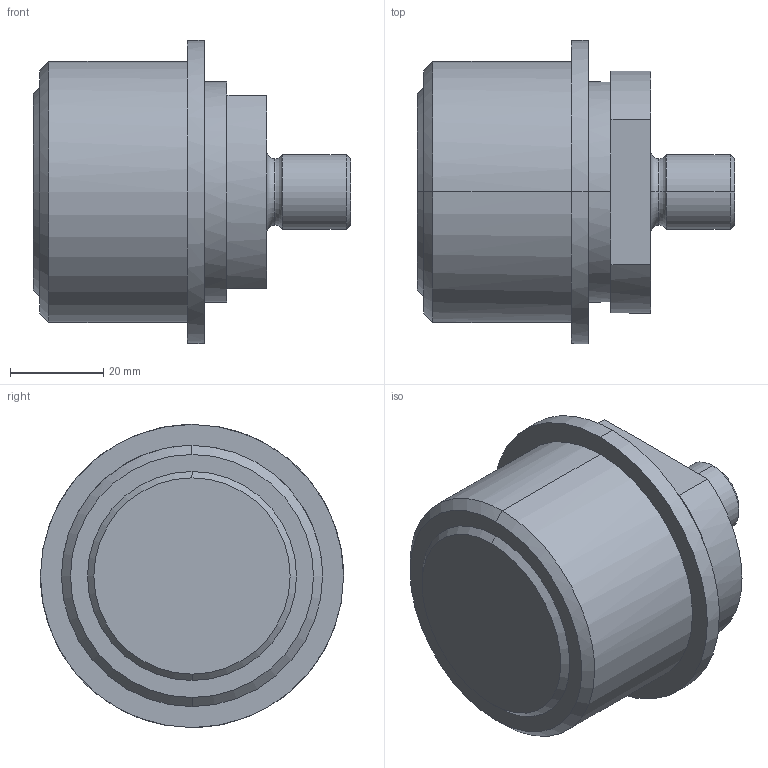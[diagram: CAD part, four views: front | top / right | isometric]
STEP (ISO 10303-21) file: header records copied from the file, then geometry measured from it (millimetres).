
FILE_DESCRIPTION(('CATIA V5 STEP Exchange'),'2;1');
FILE_NAME('C:\Users\Utente\Desktop\IO LAVORO\3D X SITO CF\X SITO\PLASTICA\AGS\AGS3412M16.stp','2021-02-21T19:40:05+00:00',('none'),('none'),'CATIA Version 5 Release 20 GA (IN-10)','CATIA V5 STEP AP203','none');
FILE_SCHEMA(('CONFIG_CONTROL_DESIGN'));
Length unit declared in the file: millimetre
Products named in the file (1): AGS3412M16
Bounding box: 68 x 65 x 65 mm (x, y, z)
Volume: 119914.1 mm3; surface area: 16242.6 mm2
Topology: 1 solids, 1 shells, 32 faces, 90 edges, 64 vertices
Faces by surface type: plane 12, cylinder 10, cone 6, torus 4
Entity records: 1198 total; most frequent: CARTESIAN_POINT 343, ORIENTED_EDGE 180, DIRECTION 139, EDGE_CURVE 90, AXIS2_PLACEMENT_3D 82, VERTEX_POINT 64, CIRCLE 49, EDGE_LOOP 36
